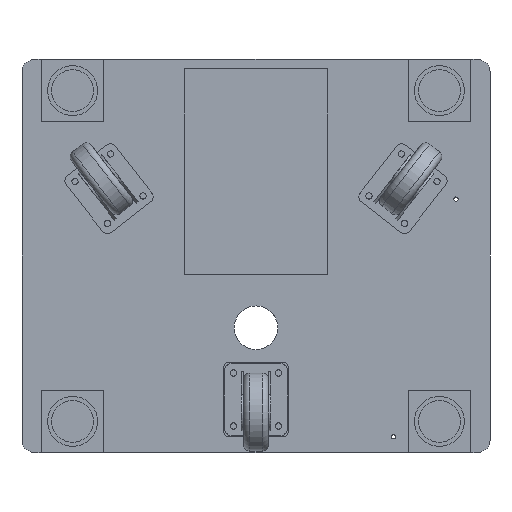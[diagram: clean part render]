
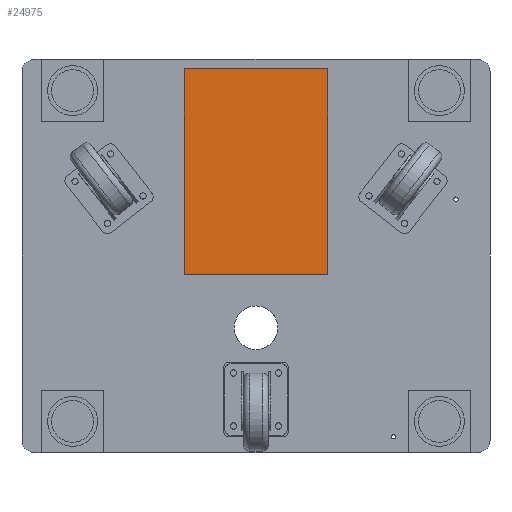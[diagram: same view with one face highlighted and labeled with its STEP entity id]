
A CAD part, front view. The second image highlights one B-rep face of the part: STEP entity #24975.
In plain terms, the highlighted planar face has unit normal (0, -1, 0).
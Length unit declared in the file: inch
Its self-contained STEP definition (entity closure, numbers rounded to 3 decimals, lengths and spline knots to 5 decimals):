
#9582=DIRECTION('',(1.,0.,0.));
#9583=VECTOR('',#9582,9.05512);
#9584=CARTESIAN_POINT('',(-4.52756,4.48819,3.34646));
#9585=LINE('',#9584,#9583);
#9590=DIRECTION('',(0.,0.,-1.));
#9591=VECTOR('',#9590,12.99213);
#9592=CARTESIAN_POINT('',(-4.52756,4.48819,16.33858));
#9593=LINE('',#9592,#9591);
#9598=DIRECTION('',(-1.,0.,0.));
#9599=VECTOR('',#9598,9.05512);
#9600=CARTESIAN_POINT('',(4.52756,4.48819,16.33858));
#9601=LINE('',#9600,#9599);
#9606=DIRECTION('',(0.,0.,1.));
#9607=VECTOR('',#9606,12.99213);
#9608=CARTESIAN_POINT('',(4.52756,4.48819,3.34646));
#9609=LINE('',#9608,#9607);
#12159=CARTESIAN_POINT('',(-4.52756,4.48819,
3.34646));
#12160=CARTESIAN_POINT('',(4.52756,4.48819,3.34646));
#12161=VERTEX_POINT('',#12159);
#12162=VERTEX_POINT('',#12160);
#12163=CARTESIAN_POINT('',(-4.52756,4.48819,
16.33858));
#12164=VERTEX_POINT('',#12163);
#12165=CARTESIAN_POINT('',(4.52756,4.48819,16.33858));
#12166=VERTEX_POINT('',#12165);
#24964=CARTESIAN_POINT('',(0.,4.48819,9.84252));
#24965=DIRECTION('',(0.,1.,0.));
#24966=DIRECTION('',(0.,0.,1.));
#24967=AXIS2_PLACEMENT_3D('',#24964,#24965,#24966);
#24968=PLANE('',#24967);
#24969=ORIENTED_EDGE('',*,*,#24916,.F.);
#24970=ORIENTED_EDGE('',*,*,#24931,.F.);
#24971=ORIENTED_EDGE('',*,*,#24945,.F.);
#24972=ORIENTED_EDGE('',*,*,#24958,.F.);
#24973=EDGE_LOOP('',(#24969,#24970,#24971,#24972));
#24974=FACE_OUTER_BOUND('',#24973,.F.);
#24975=ADVANCED_FACE('',(#24974),#24968,.F.);
#24916=EDGE_CURVE('',#12161,#12162,#9585,.T.);
#24931=EDGE_CURVE('',#12164,#12161,#9593,.T.);
#24945=EDGE_CURVE('',#12166,#12164,#9601,.T.);
#24958=EDGE_CURVE('',#12162,#12166,#9609,.T.);
